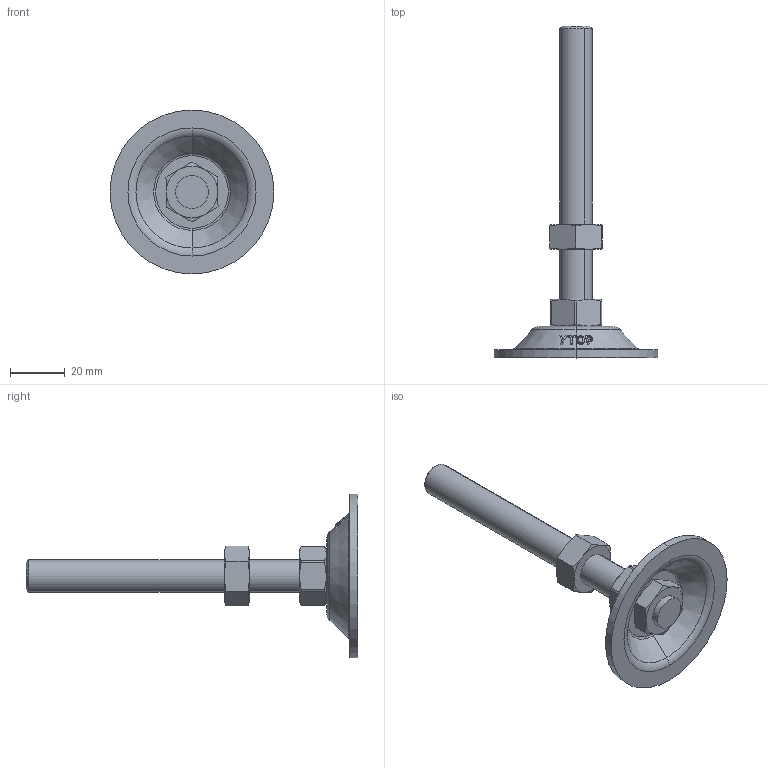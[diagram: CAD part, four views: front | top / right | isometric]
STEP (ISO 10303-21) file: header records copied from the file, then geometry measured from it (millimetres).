
FILE_DESCRIPTION (( 'STEP AP203' ), '1' );
FILE_NAME ('N-60-12100-S.STEP', '2020-09-10T07:57:11', ( '' ), ( '' ), 'SwSTEP 2.0', 'SolidWorks 2016', '' );
FILE_SCHEMA (( 'CONFIG_CONTROL_DESIGN' ));
Length unit declared in the file: millimetre
Products named in the file (5): 脚垫调节六角螺母M12; 脚垫锁紧六角薄螺母M12; 不锈钢双头螺栓M12系列_M12X100; H-60-3P H倰60菁釱; N-60-12100-S
Assembly tree (4 placements, depth 2):
  N-60-12100-S
    H-60-3P H倰60菁釱
    不锈钢双头螺栓M12系列_M12X100
    脚垫锁紧六角薄螺母M12
    脚垫调节六角螺母M12
Bounding box: 60 x 121.5 x 60 mm (x, y, z)
Volume: 28430.5 mm3; surface area: 14631.5 mm2
Topology: 4 solids, 4 shells, 146 faces, 342 edges, 214 vertices
Faces by surface type: cone 52, bspline 38, plane 30, cylinder 18, torus 8
Entity records: 7890 total; most frequent: CARTESIAN_POINT 4410, ORIENTED_EDGE 684, DIRECTION 492, EDGE_CURVE 342, AXIS2_PLACEMENT_3D 217, VERTEX_POINT 214, B_SPLINE_CURVE_WITH_KNOTS 182, EDGE_LOOP 162
